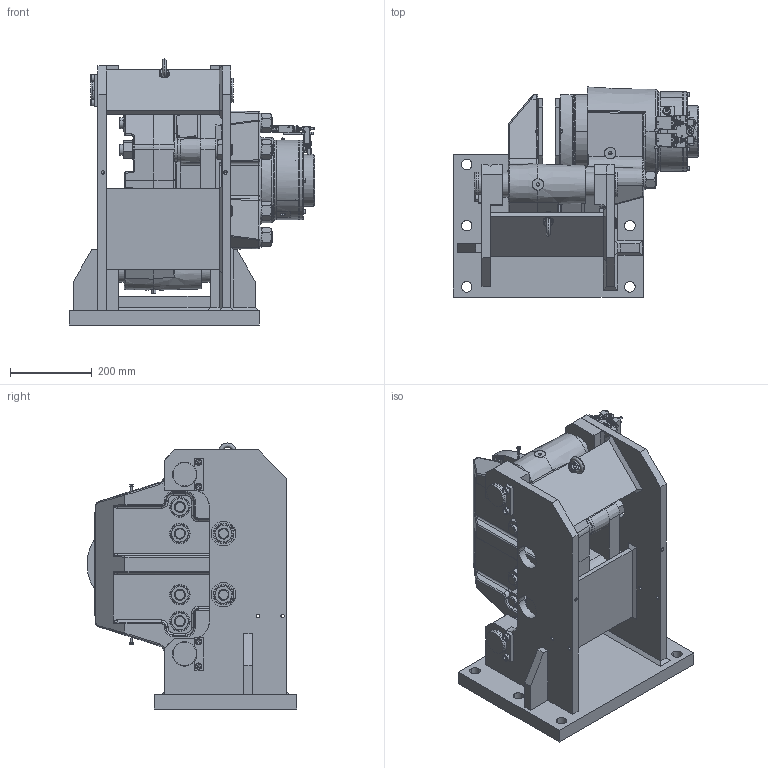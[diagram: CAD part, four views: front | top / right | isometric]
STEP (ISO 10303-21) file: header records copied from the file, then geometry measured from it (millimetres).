
FILE_DESCRIPTION((''),'2;1');
FILE_NAME('HS_145_FHM-270R-H','2020-10-30T',('BOLS'),(''),'CREO PARAMETRIC BY PTC INC, 2018360','CREO PARAMETRIC BY PTC INC, 2018360','');
FILE_SCHEMA(('CONFIG_CONTROL_DESIGN'));
Products named in the file (1): HS_145_FHM-270R-H
Bounding box: 600.8 x 514.42 x 651.95 mm (x, y, z)
Volume: 26005134.8 mm3; surface area: 3491331.9 mm2
Topology: 12 solids, 74 shells, 3175 faces, 7676 edges, 4747 vertices
Faces by surface type: plane 1220, cylinder 976, cone 617, torus 198, bspline 124, sphere 36, revolution 4
Entity records: 136173 total; most frequent: CARTESIAN_POINT 39483, DIRECTION 15736, ORIENTED_EDGE 15084, PRESENTATION_STYLE_ASSIGNMENT 7559, STYLED_ITEM 7559, CURVE_STYLE 7545, EDGE_CURVE 7545, AXIS2_PLACEMENT_3D 6184
